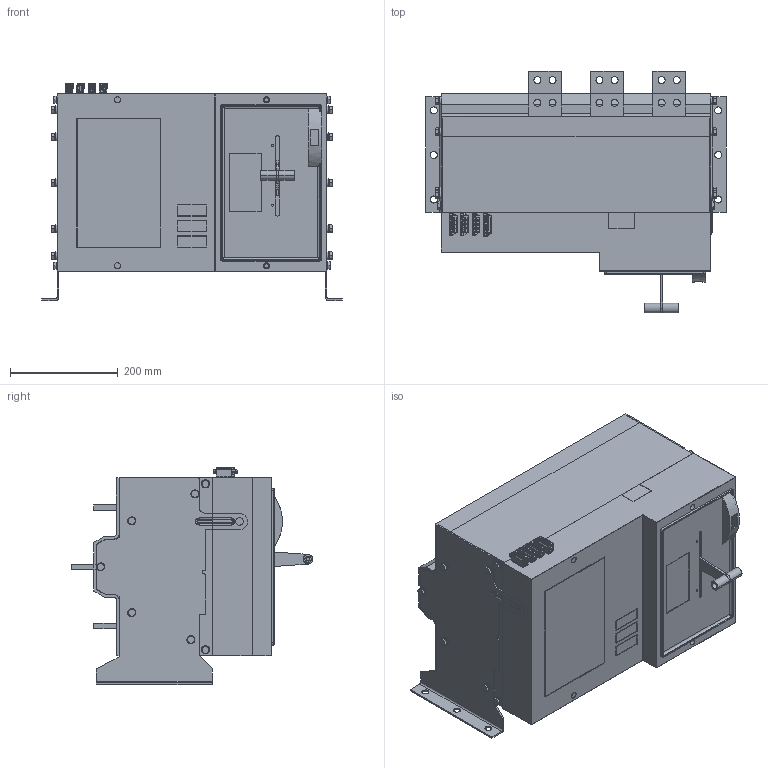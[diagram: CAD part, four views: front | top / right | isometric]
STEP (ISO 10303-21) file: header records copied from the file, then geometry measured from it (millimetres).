
FILE_DESCRIPTION (( 'STEP AP214' ), '1' );
FILE_NAME ('XKQE3150-1250A-3P.STEP', '2023-04-21T02:45:57', ( '' ), ( '' ), 'SwSTEP 2.0', 'SolidWorks 2020', '' );
FILE_SCHEMA (( 'AUTOMOTIVE_DESIGN' ));
Length unit declared in the file: millimetre
Products named in the file (11): 8XKQE-003-100___.STEP.STEP; 5XKQE.551.127.3-4.STEP.STEP; 1_2_1.STEP.STEP; 8XKQE-050-124_3_1.STEP.STEP; ________.STEP; 8XKQE-253-102_1_1.STEP.STEP; M8-25________.STEP; 5XKQE.150.101.STEP.STEP; 8XKQE-253-101_1_1.STEP.STEP; 5XKQE-024-102_3_2.STEP.STEP; XKQE3150-1250A-3P
Assembly tree (26 placements, depth 2):
  XKQE3150-1250A-3P
    8XKQE-050-124_3_1.STEP.STEP
    1_2_1.STEP.STEP
    5XKQE.150.101.STEP.STEP
    8XKQE-253-102_1_1.STEP.STEP  x2
    8XKQE-003-100___.STEP.STEP
    8XKQE-253-101_1_1.STEP.STEP
    5XKQE-024-102_3_2.STEP.STEP
    5XKQE.551.127.3-4.STEP.STEP  x3
    M8-25________.STEP  x14
    ________.STEP
Bounding box: 557 x 448 x 402 mm (x, y, z)
Volume: 44741690.1 mm3; surface area: 2139018.4 mm2
Topology: 90 solids, 195 shells, 6169 faces, 16025 edges, 10480 vertices
Faces by surface type: plane 3896, cylinder 1469, cone 481, bspline 249, torus 66, sphere 8
Entity records: 187233 total; most frequent: CARTESIAN_POINT 50372, ORIENTED_EDGE 29530, DIRECTION 26123, EDGE_CURVE 14765, VECTOR 10037, LINE 10037, VERTEX_POINT 9682, AXIS2_PLACEMENT_3D 8043
